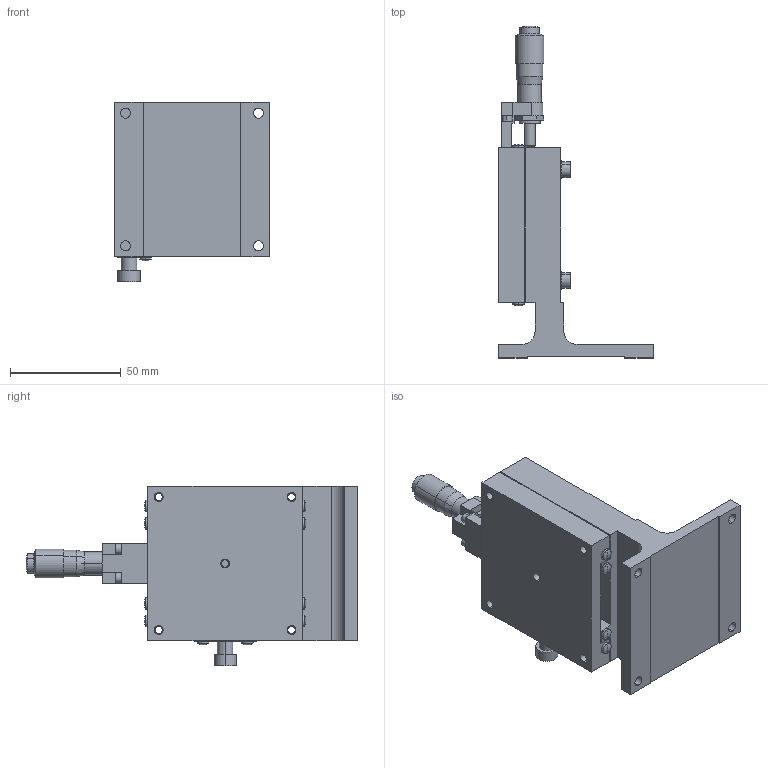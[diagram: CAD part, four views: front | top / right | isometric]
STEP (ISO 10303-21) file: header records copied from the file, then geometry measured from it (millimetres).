
FILE_DESCRIPTION (( 'STEP AP214' ), '1' );
FILE_NAME ('LZ‐7041‐C8.STEP', '2007-08-30T11:14:53', ( '' ), ( '' ), 'SwSTEP 2.0', 'SolidWorks 2006303', '' );
FILE_SCHEMA (( 'AUTOMOTIVE_DESIGN' ));
Length unit declared in the file: millimetre
Products named in the file (3): LZ‐7041‐C8; LZ70C800‐1_ﾃﾞﾌｫﾙﾄ; LZ70C800‐2_ﾃﾞﾌｫﾙﾄ
Assembly tree (2 placements, depth 2):
  LZ‐7041‐C8
    LZ70C800‐2_ﾃﾞﾌｫﾙﾄ
    LZ70C800‐1_ﾃﾞﾌｫﾙﾄ
Bounding box: 70 x 150 x 81.3 mm (x, y, z)
Volume: 173510.4 mm3; surface area: 57017.3 mm2
Topology: 3 solids, 7 shells, 314 faces, 743 edges, 480 vertices
Faces by surface type: cylinder 139, plane 127, cone 24, sphere 22, torus 2
Entity records: 9291 total; most frequent: DIRECTION 1743, CARTESIAN_POINT 1540, ORIENTED_EDGE 1482, EDGE_CURVE 741, AXIS2_PLACEMENT_3D 683, VERTEX_POINT 480, EDGE_LOOP 393, VECTOR 377
